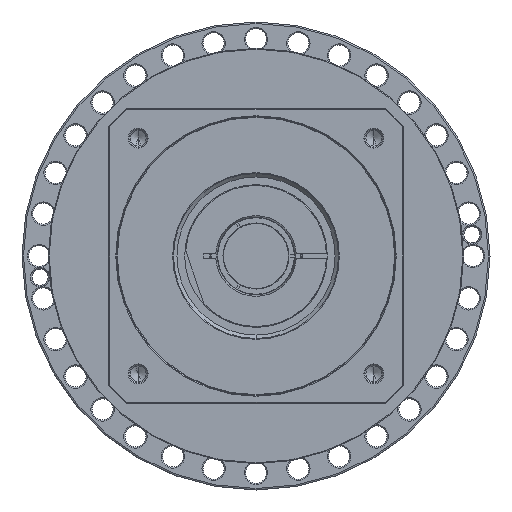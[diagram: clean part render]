
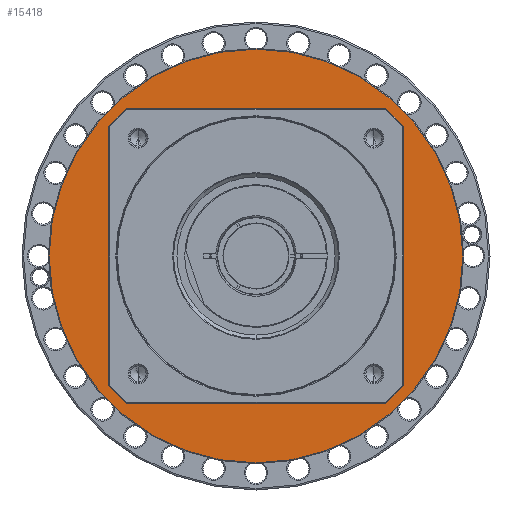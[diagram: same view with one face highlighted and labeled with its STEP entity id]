
A CAD part, left-side view. The second image highlights one B-rep face of the part: STEP entity #15418.
In plain terms, the highlighted planar face has unit normal (-1, 0, 0) as drawn and (1, 0, 0) by its records, which use the part's own axes.
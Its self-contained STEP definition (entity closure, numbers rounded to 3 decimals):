
#14945=CARTESIAN_POINT('',(-0.5,0.,
0.));
#14946=DIRECTION('',(-1.,0.,0.));
#14947=DIRECTION('',(0.,1.,0.));
#14948=AXIS2_PLACEMENT_3D('',#14945,#14946,#14947);
#14950=CARTESIAN_POINT('',(-0.5,0.,
0.));
#14951=DIRECTION('',(-1.,0.,0.));
#14952=DIRECTION('',(0.,-1.,0.));
#14953=AXIS2_PLACEMENT_3D('',#14950,#14951,#14952);
#14955=CARTESIAN_POINT('',(-0.5,0.,0.));
#14956=DIRECTION('',(-1.,0.,0.));
#14957=DIRECTION('',(0.,-1.,0.));
#14958=AXIS2_PLACEMENT_3D('',#14955,#14956,#14957);
#14960=CARTESIAN_POINT('',(-0.5,0.,0.));
#14961=DIRECTION('',(-1.,0.,0.));
#14962=DIRECTION('',(0.,1.,0.));
#14963=AXIS2_PLACEMENT_3D('',#14960,#14961,#14962);
#14989=CARTESIAN_POINT('',(-0.5,-133.5,0.));
#14990=CARTESIAN_POINT('',(-0.5,133.5,0.));
#14991=VERTEX_POINT('',#14989);
#14992=VERTEX_POINT('',#14990);
#15037=CARTESIAN_POINT('',(-0.5,88.5,
0.));
#15038=CARTESIAN_POINT('',(-0.5,-88.5,
0.));
#15039=VERTEX_POINT('',#15037);
#15040=VERTEX_POINT('',#15038);
#15403=CARTESIAN_POINT('',(-0.5,0.,0.));
#15404=DIRECTION('',(1.,0.,0.));
#15405=DIRECTION('',(0.,-1.,0.));
#15406=AXIS2_PLACEMENT_3D('',#15403,#15404,#15405);
#15407=PLANE('',#15406);
#15408=ORIENTED_EDGE('',*,*,#15344,.T.);
#15409=ORIENTED_EDGE('',*,*,#15359,.T.);
#15410=EDGE_LOOP('',(#15408,#15409));
#15411=FACE_OUTER_BOUND('',#15410,.F.);
#15413=ORIENTED_EDGE('',*,*,#15412,.F.);
#15415=ORIENTED_EDGE('',*,*,#15414,.F.);
#15416=EDGE_LOOP('',(#15413,#15415));
#15417=FACE_BOUND('',#15416,.F.);
#15418=ADVANCED_FACE('',(#15411,#15417),#15407,.T.);
#14949=CIRCLE('',#14948,88.5);
#14954=CIRCLE('',#14953,88.5);
#14959=CIRCLE('',#14958,133.5);
#14964=CIRCLE('',#14963,133.5);
#15344=EDGE_CURVE('',#14991,#14992,#14959,.T.);
#15359=EDGE_CURVE('',#14992,#14991,#14964,.T.);
#15412=EDGE_CURVE('',#15039,#15040,#14949,.T.);
#15414=EDGE_CURVE('',#15040,#15039,#14954,.T.);
